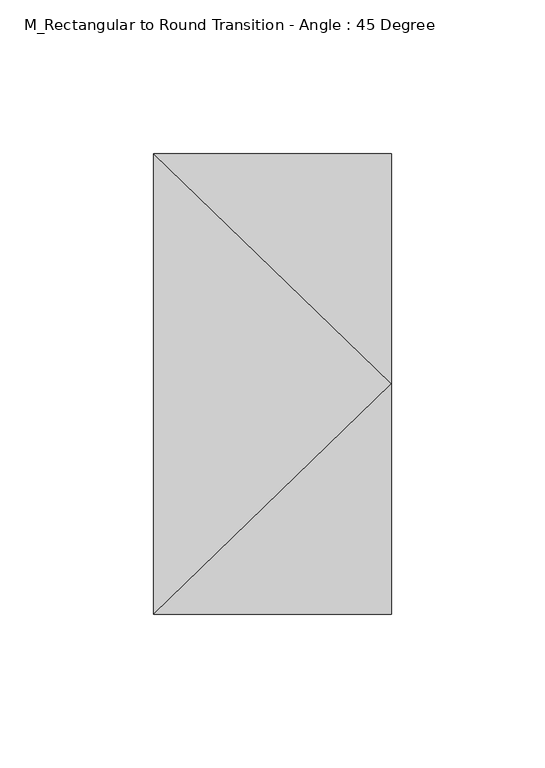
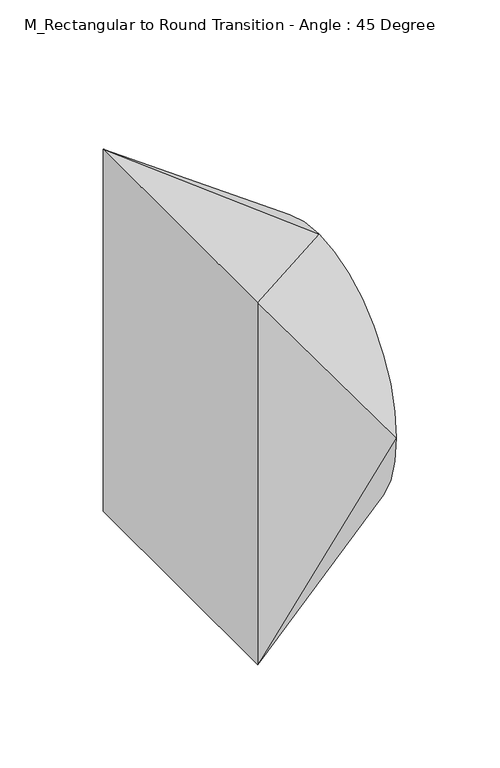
"""IFC4 building model written with IfcOpenShell, lengths in millimetres: duct fitting geometry, M_Rectangular to Round Transition - Angle : 45 Degree."""

import ifcopenshell
import ifcopenshell.guid

model = None  # the IFC model being written
_history = None  # IfcOwnerHistory: only IFC2X3 demands one
_inside = {}  # id of a spatial element -> (the spatial element, [elements in it])
_under = {}  # id of a project, library or spatial element -> (it, [spatial elements below it])
_declared = {}  # id of a project -> (the project, [libraries it declares])
_typed = {}  # id of a type object -> (the type object, [elements of that type])
_made_of = {}  # id of a material, layer set ... -> (it, [elements and type objects made of it])


def new_model(schema):
    """Start an empty IFC model of exactly this schema.

    Asked for "IFC4X3", IfcOpenShell would pick the latest addendum, in which some entities
    have other attributes; the version numbers below select the first issue.
    IFC2X3 requires an IfcOwnerHistory on every rooted entity: one is made here for all.
    """
    global model, _history
    if schema == "IFC4X3":
        model = ifcopenshell.file(schema_version=(4, 3, 0, 0))
    else:
        model = ifcopenshell.file(schema=schema)
    _inside.clear()
    _under.clear()
    _declared.clear()
    _typed.clear()
    _made_of.clear()
    _history = None
    if model.schema == "IFC2X3":
        org = make("IfcOrganization", Name="unknown")
        user = make(
            "IfcPersonAndOrganization",
            ThePerson=make("IfcPerson", FamilyName="unknown"),
            TheOrganization=org,
        )
        app = make(
            "IfcApplication",
            ApplicationDeveloper=org,
            Version="unknown",
            ApplicationFullName="unknown",
            ApplicationIdentifier="unknown",
        )
        _history = make(
            "IfcOwnerHistory",
            OwningUser=user,
            OwningApplication=app,
            ChangeAction="ADDED",
            CreationDate=0,
        )
    return model


def make(cls, **values):
    """One entity of the class cls with the attributes given. An attribute that is None is left unset."""
    return model.create_entity(
        cls, **{name: value for name, value in values.items() if value is not None}
    )


def rooted(cls, **values):
    """An entity with a GlobalId (a new one), such as an element, a storey or a relation."""
    return make(cls, GlobalId=ifcopenshell.guid.new(), OwnerHistory=_history, **values)


def si_unit(unit_type, name, prefix=None):
    """IfcSIUnit, for example si_unit("LENGTHUNIT", "METRE", prefix="MILLI")."""
    return make("IfcSIUnit", UnitType=unit_type, Prefix=prefix, Name=name)


def assignment(units):
    """IfcUnitAssignment: the units of a project."""
    return None if units is None else make("IfcUnitAssignment", Units=units)


def point(xyz):
    """IfcCartesianPoint."""
    return None if xyz is None else make("IfcCartesianPoint", Coordinates=xyz)


def direction(xyz):
    """IfcDirection."""
    return None if xyz is None else make("IfcDirection", DirectionRatios=xyz)


def frame(location, z_axis=None, x_axis=None):
    """IfcAxis2Placement3D, a coordinate frame: its origin and axes. An axis left out is left unset."""
    return make(
        "IfcAxis2Placement3D",
        Location=point(location),
        Axis=direction(z_axis),
        RefDirection=direction(x_axis),
    )


def origin():
    """The frame at (0, 0, 0) with its axes left unset."""
    return frame((0.0, 0.0, 0.0))


def place(relative_to, where):
    """IfcLocalPlacement: puts the frame where relative to a parent placement (None: the world)."""
    return make(
        "IfcLocalPlacement", PlacementRelTo=relative_to, RelativePlacement=where
    )


def context(
    kind, dimensions, precision=None, world=None, true_north=None, identifier=None
):
    """IfcGeometricRepresentationContext, for example the 3D "Model" context."""
    return make(
        "IfcGeometricRepresentationContext",
        ContextIdentifier=identifier,
        ContextType=kind,
        CoordinateSpaceDimension=dimensions,
        Precision=precision,
        WorldCoordinateSystem=world,
        TrueNorth=true_north,
    )


def project(units=None, contexts=None):
    """IfcProject with its units and contexts."""
    return rooted(
        "IfcProject",
        Name="project",
        RepresentationContexts=contexts,
        UnitsInContext=assignment(units),
    )


def spatial(cls, under=None, at=None, **own):
    """A site, building, storey or space (cls), placed at a placement, below another one or the project."""
    s = rooted(cls, ObjectPlacement=at, **own)
    if under is not None:
        _under.setdefault(under.id(), (under, []))[1].append(s)
    return s


def circle_curve(where, radius):
    """IfcCircle in the frame where."""
    return make("IfcCircle", Position=where, Radius=radius)


def shape(context_of_items, identifier, shape_type, items):
    """IfcShapeRepresentation: the items that make up one representation, for example the "Body"."""
    return make(
        "IfcShapeRepresentation",
        ContextOfItems=context_of_items,
        RepresentationIdentifier=identifier,
        RepresentationType=shape_type,
        Items=items,
    )


def source(mapping_origin, context_of_items, identifier, shape_type, items):
    """IfcRepresentationMap: a shape defined once, which mapped items show again and again."""
    return make(
        "IfcRepresentationMap",
        MappingOrigin=mapping_origin,
        MappedRepresentation=shape(context_of_items, identifier, shape_type, items),
    )


def transform(
    local_origin,
    x_axis=None,
    y_axis=None,
    z_axis=None,
    scale=None,
    scale2=None,
    scale3=None,
    uniform=True,
):
    """IfcCartesianTransformationOperator3D, or its non-uniform kind. x_axis, y_axis, z_axis: its Axis1, 2, 3."""
    if uniform:
        return make(
            "IfcCartesianTransformationOperator3D",
            Axis1=direction(x_axis),
            Axis2=direction(y_axis),
            LocalOrigin=point(local_origin),
            Scale=scale,
            Axis3=direction(z_axis),
        )
    return make(
        "IfcCartesianTransformationOperator3DnonUniform",
        Axis1=direction(x_axis),
        Axis2=direction(y_axis),
        LocalOrigin=point(local_origin),
        Scale=scale,
        Axis3=direction(z_axis),
        Scale2=scale2,
        Scale3=scale3,
    )


def mapped(mapping_source, mapping_target):
    """IfcMappedItem: shows the shape of a source again, moved by a transform."""
    return make(
        "IfcMappedItem", MappingSource=mapping_source, MappingTarget=mapping_target
    )


def made_of(thing, what):
    """Note that an element or type object is made of a material, layer set ...; save() writes the relation."""
    if what is not None:
        _made_of.setdefault(what.id(), (what, []))[1].append(thing)
    return thing


def element(
    cls,
    number,
    at=None,
    inside=None,
    cuts=None,
    type_object=None,
    material=None,
    context=None,
    identifier="Body",
    shape_type=None,
    held_by="IfcProductDefinitionShape",
    body=None,
    shapes=None,
    **own,
):
    """One element of the class cls, such as IfcWall. Its Tag is "e" and its number.

    at: its placement. inside: the storey or other place that contains it. cuts: it is an
    opening in that element (IfcRelVoidsElement). A single representation is given by context,
    identifier, shape_type and body (its items); several are given by shapes. held_by: the class
    of the entity that holds the representations. save() writes the other relations.
    """
    e = rooted(cls, Tag="e%d" % number, ObjectPlacement=at, **own)
    if body is not None:
        shapes = [shape(context, identifier, shape_type, body)]
    if shapes is not None:
        e.Representation = make(held_by, Representations=shapes)
    if inside is not None:
        _inside.setdefault(inside.id(), (inside, []))[1].append(e)
    if cuts is not None:
        rooted(
            "IfcRelVoidsElement", RelatingBuildingElement=cuts, RelatedOpeningElement=e
        )
    if type_object is not None:
        _typed.setdefault(type_object.id(), (type_object, []))[1].append(e)
    return made_of(e, material)


def aggregate(whole, parts):
    """IfcRelAggregates: a whole, such as a stair, and the parts it consists of."""
    return rooted("IfcRelAggregates", RelatingObject=whole, RelatedObjects=parts)


def save(model, path):
    """Write the relations noted so far, then the file.

    IfcRelAggregates (storeys below a building ...), IfcRelContainedInSpatialStructure (elements
    in a storey), IfcRelDefinesByType, IfcRelAssociatesMaterial and IfcRelDeclares: one each for
    every whole, place, type object, material and project.
    """
    for whole, parts in _under.values():
        aggregate(whole, parts)
    for where, things in _inside.values():
        rooted(
            "IfcRelContainedInSpatialStructure",
            RelatedElements=things,
            RelatingStructure=where,
        )
    for kind, things in _typed.values():
        rooted("IfcRelDefinesByType", RelatedObjects=things, RelatingType=kind)
    for what, things in _made_of.values():
        rooted("IfcRelAssociatesMaterial", RelatedObjects=things, RelatingMaterial=what)
    for by, libraries in _declared.values():
        rooted("IfcRelDeclares", RelatingContext=by, RelatedDefinitions=libraries)
    model.write(path)


def plane_surface(at):
    """IfcPlane: the flat surface through the origin of the frame at, square to its z axis."""
    return make("IfcPlane", Position=at)


def spline_surface(u_degree, v_degree, points, u_multiplicities, v_multiplicities, u_knots, v_knots, weights=None):
    """IfcBSplineSurfaceWithKnots; with weights, IfcRationalBSplineSurfaceWithKnots. points: one row for each step in u."""
    own = dict(
        UDegree=u_degree,
        VDegree=v_degree,
        ControlPointsList=[[point(p) for p in row] for row in points],
        SurfaceForm="UNSPECIFIED",
        UClosed=False,
        VClosed=False,
        SelfIntersect=False,
        UMultiplicities=u_multiplicities,
        VMultiplicities=v_multiplicities,
        UKnots=u_knots,
        VKnots=v_knots,
        KnotSpec="UNSPECIFIED",
    )
    if weights is None:
        return make("IfcBSplineSurfaceWithKnots", **own)
    return make("IfcRationalBSplineSurfaceWithKnots", WeightsData=weights, **own)


def advanced_brep(points, edges, surfaces, faces):
    """IfcAdvancedBrep: a solid bounded by faces that lie on surfaces and meet in shared edges.

    An edge is (start, end): straight between two places in points (the first is 0);
    or (start, end, curve); or (start, end, curve, False) where it runs against its curve.
    A face is (place in surfaces, loops), or (place, loops, False) where it looks against
    its surface's normal. A loop lists edges by number (the first is 1), with a minus sign
    where the edge is run from its end to its start. The first loop is the outer one.
    """
    corners = [point(p) for p in points]
    vertices = [make("IfcVertexPoint", VertexGeometry=c) for c in corners]
    made = []
    for start, end, *more in edges:
        made.append(
            make(
                "IfcEdgeCurve",
                EdgeStart=vertices[start],
                EdgeEnd=vertices[end],
                EdgeGeometry=more[0] if more else make("IfcPolyline", Points=[corners[start], corners[end]]),
                SameSense=more[1] if len(more) > 1 else True,
            )
        )
    hull = []
    for where, loops, *sense in faces:
        bounds = []
        for j, loop in enumerate(loops):
            ring = [make("IfcOrientedEdge", EdgeElement=made[abs(k) - 1], Orientation=k > 0) for k in loop]
            bounds.append(
                make(
                    "IfcFaceOuterBound" if j == 0 else "IfcFaceBound",
                    Bound=make("IfcEdgeLoop", EdgeList=ring),
                    Orientation=True,
                )
            )
        hull.append(make("IfcAdvancedFace", Bounds=bounds, FaceSurface=surfaces[where], SameSense=sense[0] if sense else True))
    return make("IfcAdvancedBrep", Outer=make("IfcClosedShell", CfsFaces=hull))


def m_rectangular_to_round_transition_angle_45_degree_c764813a(model_context):
    return source(origin(), model_context, "Body", "AdvancedBrep", [
        advanced_brep(
        [(77.5867884, 0.0, 75.0), (77.5867884, -75.0, 0.0), (77.5867884, 0.0, -75.0), (77.5867884, 75.0, 0.0), (0.0, -75.0, 107.1375), (0.0, 75.0, 107.1375), (0.0, 75.0, -107.1375), (0.0, -75.0, -107.1375)],
        [
            (0, 1, circle_curve(frame((77.5867884, 0.0, 0.0), z_axis=(1.0, 0.0, 0.0), x_axis=(0.0, 1.0, 0.0)), 75.0)),
            (1, 2, circle_curve(frame((77.5867884, 0.0, 0.0), z_axis=(1.0, 0.0, 0.0), x_axis=(0.0, 1.0, 0.0)), 75.0)),
            (2, 3, circle_curve(frame((77.5867884, 0.0, 0.0), z_axis=(1.0, 0.0, 0.0), x_axis=(0.0, 1.0, 0.0)), 75.0)),
            (3, 0, circle_curve(frame((77.5867884, 0.0, 0.0), z_axis=(1.0, 0.0, 0.0), x_axis=(0.0, 1.0, 0.0)), 75.0)),
            (4, 5),
            (5, 6),
            (6, 7),
            (7, 4),
            (0, 4),
            (4, 1),
            (7, 1),
            (7, 2),
            (6, 2),
            (6, 3),
            (5, 3),
            (5, 0),
        ],
        [
            plane_surface(frame((77.5867884, 0.0, 0.0), z_axis=(1.0, 0.0, 0.0), x_axis=(0.0, 0.0, -1.0))),
            plane_surface(frame((0.0, 0.0, 0.0), z_axis=(-1.0, 0.0, 0.0), x_axis=(0.0, 0.0, -1.0))),
            spline_surface(2, 1, [[(0.0, -75.0, 107.1375), (77.5867884, 0.0, 75.0)], [(0.0, -75.0, 107.1375), (77.5867884, -75.0, 75.0)], [(0.0, -75.0, 107.1375), (77.5867884, -75.0, 0.0)]], [3, 3], [2, 2], [0.0, 1.0], [0.0, 1.0], weights=[[1.0, 1.0], [0.7071067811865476, 0.7071067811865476], [1.0, 1.0]]),
            plane_surface(frame((0.0, -75.0, 0.0), z_axis=(0.0, -1.0, 0.0), x_axis=(0.0, 0.0, -1.0))),
            spline_surface(2, 1, [[(0.0, -75.0, -107.1375), (77.5867884, -75.0, 0.0)], [(0.0, -75.0, -107.1375), (77.5867884, -75.0, -75.0)], [(0.0, -75.0, -107.1375), (77.5867884, 0.0, -75.0)]], [3, 3], [2, 2], [0.0, 1.0], [0.0, 1.0], weights=[[1.0, 1.0], [0.7071067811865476, 0.7071067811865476], [1.0, 1.0]]),
            plane_surface(frame((0.0, 0.0, -107.1375), z_axis=(0.3826834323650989, 0.0, -0.9238795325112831), x_axis=(0.0, 1.0, 0.0))),
            spline_surface(2, 1, [[(0.0, 75.0, -107.1375), (77.5867884, 0.0, -75.0)], [(0.0, 75.0, -107.1375), (77.5867884, 75.0, -75.0)], [(0.0, 75.0, -107.1375), (77.5867884, 75.0, 0.0)]], [3, 3], [2, 2], [0.0, 1.0], [0.0, 1.0], weights=[[1.0, 1.0], [0.7071067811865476, 0.7071067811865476], [1.0, 1.0]]),
            plane_surface(frame((0.0, 75.0, 0.0), z_axis=(0.0, 1.0, 0.0), x_axis=(0.0, 0.0, 1.0))),
            spline_surface(2, 1, [[(0.0, 75.0, 107.1375), (77.5867884, 75.0, 0.0)], [(0.0, 75.0, 107.1375), (77.5867884, 75.0, 75.0)], [(0.0, 75.0, 107.1375), (77.5867884, 0.0, 75.0)]], [3, 3], [2, 2], [0.0, 1.0], [0.0, 1.0], weights=[[1.0, 1.0], [0.7071067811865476, 0.7071067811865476], [1.0, 1.0]]),
            plane_surface(frame((0.0, 0.0, 107.1375), z_axis=(0.38268343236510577, 0.0, 0.9238795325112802), x_axis=(0.0, -1.0, 0.0))),
        ],
        [
            (0, [[1, 2, 3, 4]]),
            (1, [[5, 6, 7, 8]]),
            (2, [[-1, 9, 10]]),
            (3, [[-8, 11, -10]]),
            (4, [[-2, -11, 12]]),
            (5, [[-7, 13, -12]]),
            (6, [[-3, -13, 14]]),
            (7, [[-6, 15, -14]]),
            (8, [[-4, -15, 16]]),
            (9, [[-5, -9, -16]]),
        ],
    ),
    ])


if __name__ == "__main__":
    model = new_model("IFC4")
    model_context = context("Model", 3, world=origin())
    ifc_project = project(units=[si_unit("LENGTHUNIT", "METRE", prefix="MILLI")], contexts=[model_context])
    site = spatial("IfcSite", under=ifc_project)
    building = spatial("IfcBuilding", under=site)
    placement = place(None, origin())
    m_rectangular_to_round_transition_angle_45_degree_shape = m_rectangular_to_round_transition_angle_45_degree_c764813a(model_context)
    element("IfcDuctFitting", 1, ObjectType="M_Rectangular to Round Transition - Angle : 45 Degree", at=placement, inside=building, context=model_context, shape_type="MappedRepresentation", body=[
        mapped(m_rectangular_to_round_transition_angle_45_degree_shape, transform((0.0, 0.0, 0.0), x_axis=(1.0, 0.0, 0.0), y_axis=(0.0, 1.0, 0.0), z_axis=(0.0, 0.0, 1.0))),
    ])
    save(model, "model.ifc")
